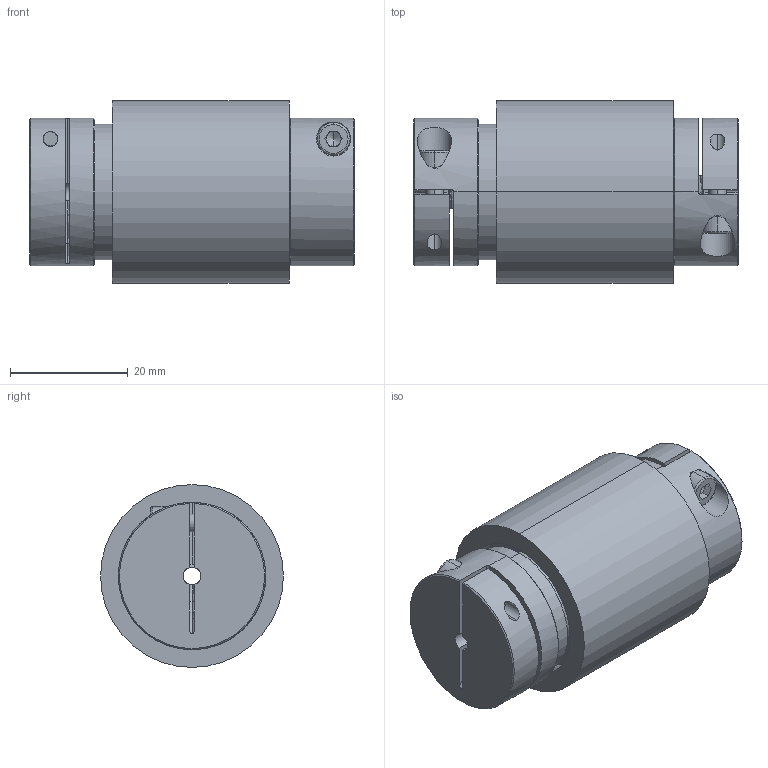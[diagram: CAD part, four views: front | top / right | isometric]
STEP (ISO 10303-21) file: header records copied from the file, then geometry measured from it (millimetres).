
FILE_DESCRIPTION (( 'STEP AP203' ), '1' );
FILE_NAME ('PMK-2.STEP', '2022-08-19T09:36:20', ( '' ), ( '' ), 'SwSTEP 2.0', 'SolidWorks 2019', '' );
FILE_SCHEMA (( 'CONFIG_CONTROL_DESIGN' ));
Length unit declared in the file: millimetre
Products named in the file (5): PMK-2; socket head cap screw 4762_din_EN ISO 4762 M3 x 10 - 10N; PMK-IRO 2_011.00000439.300_Kunde; PMK-ARO 2_011.00000440.300_Kunde; MGK-BNK 2-2G_011.00000644.100_Kunde
Assembly tree (6 placements, depth 2):
  PMK-2
    MGK-BNK 2-2G_011.00000644.100_Kunde  x2
    PMK-ARO 2_011.00000440.300_Kunde
    PMK-IRO 2_011.00000439.300_Kunde
    socket head cap screw 4762_din_EN ISO 4762 M3 x 10 - 10N  x2
Bounding box: 55 x 31 x 31 mm (x, y, z)
Volume: 29254.3 mm3; surface area: 16183.1 mm2
Topology: 6 solids, 6 shells, 152 faces, 362 edges, 226 vertices
Faces by surface type: plane 60, cylinder 56, torus 20, cone 16
Entity records: 3432 total; most frequent: CARTESIAN_POINT 642, DIRECTION 509, ORIENTED_EDGE 430, EDGE_CURVE 215, AXIS2_PLACEMENT_3D 212, VERTEX_POINT 137, EDGE_LOOP 114, CIRCLE 109
